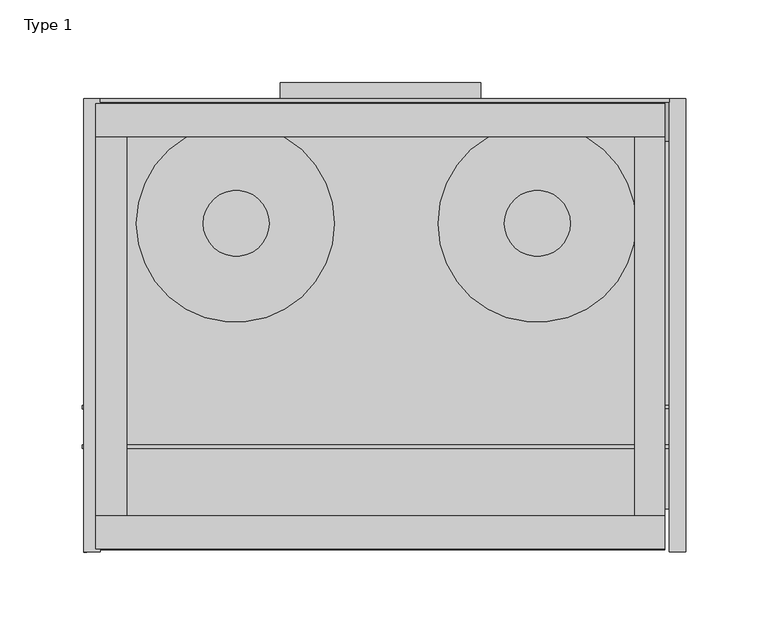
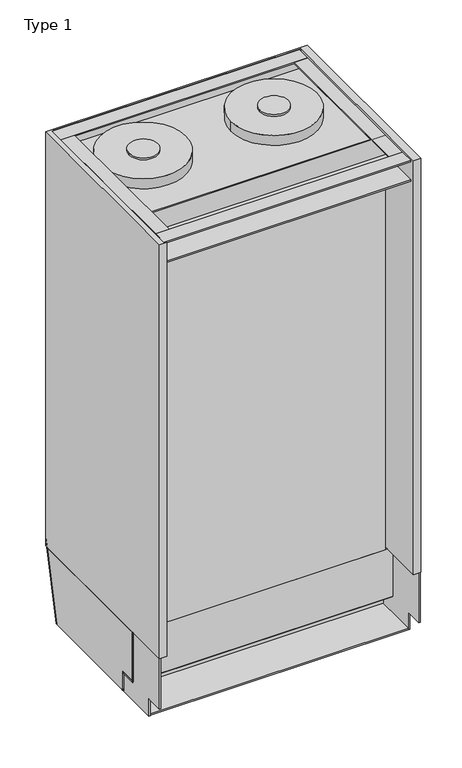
"""IFC4 building model written with IfcOpenShell, lengths in millimetres: proxy geometry, UE001 - Carel_Humidifier_Wallmount_BIM_Model : Type 1."""

from ifc_helpers import new_model, si_unit, point, frame, frame_2d, origin, place, context, project, spatial, polyline, circle_curve, ellipse_curve, trimmed, segment, composite_curve, outline, extrude, source, transform, mapped, element, save
from ifc_brep_helpers import plane_surface, extruded_surface, advanced_brep


def type_1_dc116fad(model_context):
    return source(origin(), model_context, "Body", "SolidModel", [
        extrude(outline(composite_curve([segment(trimmed(circle_curve(frame_2d((-90.9720559, 211.426212)), 20.0), [point((-110.9720559, 211.426212))], [point((-70.9720559, 211.426212))], False, "CARTESIAN"), True, "CONTINUOUS"), segment(trimmed(circle_curve(frame_2d((-90.9720559, 211.426212)), 20.0), [point((-70.9720559, 211.426212))], [point((-110.9720559, 211.426212))], False, "CARTESIAN"), True, "CONTINUOUS")], self_intersect=False)), frame((0.0, 0.0, 1098.1445814), z_axis=(0.0, 0.0, 1.0), x_axis=(1.0, 0.0, 0.0)), (0.0, 0.0, 1.0), 2.8183678),
        extrude(outline(composite_curve([segment(trimmed(circle_curve(frame_2d((91.6156471, 211.426212)), 20.0), [point((71.6156471, 211.426212))], [point((111.6156471, 211.426212))], False, "CARTESIAN"), True, "CONTINUOUS"), segment(trimmed(circle_curve(frame_2d((91.6156471, 211.426212)), 20.0), [point((111.6156471, 211.426212))], [point((71.6156471, 211.426212))], False, "CARTESIAN"), True, "CONTINUOUS")], self_intersect=False)), frame((0.0, 0.0, 1098.1445814), z_axis=(0.0, 0.0, 1.0), x_axis=(1.0, 0.0, 0.0)), (0.0, 0.0, 1.0), 2.8183678),
        extrude(outline(composite_curve([segment(trimmed(circle_curve(frame_2d((91.4514251, 211.426212)), 60.0), [point((151.4514251, 211.426212))], [point((31.4514251, 211.426212))], False, "CARTESIAN"), True, "CONTINUOUS"), segment(trimmed(circle_curve(frame_2d((91.4514251, 211.426212)), 60.0), [point((31.4514251, 211.426212))], [point((151.4514251, 211.426212))], False, "CARTESIAN"), True, "CONTINUOUS")], self_intersect=False)), frame((0.0, 0.0, 1083.4905184), z_axis=(0.0, 0.0, 1.0), x_axis=(1.0, 0.0, 0.0)), (0.0, 0.0, 1.0), 14.6540629),
        extrude(outline(composite_curve([segment(trimmed(circle_curve(frame_2d((-91.4514251, 211.426212)), 60.0), [point((-151.4514251, 211.426212))], [point((-31.4514251, 211.426212))], False, "CARTESIAN"), True, "CONTINUOUS"), segment(trimmed(circle_curve(frame_2d((-91.4514251, 211.426212)), 60.0), [point((-31.4514251, 211.426212))], [point((-151.4514251, 211.426212))], False, "CARTESIAN"), True, "CONTINUOUS")], self_intersect=False)), frame((0.0, 0.0, 1083.4905184), z_axis=(0.0, 0.0, 1.0), x_axis=(1.0, 0.0, 0.0)), (0.0, 0.0, 1.0), 14.6540629),
        extrude(outline(polyline([(287.1569067, 453.8519826), (287.1569067, 447.030123), (276.1148659, 443.0111489), (277.7599805, 450.4317811), (287.1569067, 453.8519826)])), frame((-150.8801784, 0.0, 0.0), z_axis=(1.0, 0.0, 0.0), x_axis=(0.0, 1.0, 0.0)), (0.0, 0.0, 1.0), 20.8809272),
        extrude(outline(polyline([(0.0, -3.8339423), (0.0, 0.0), (27.228015, 0.0), (27.228015, -3.8339423), (0.0, -3.8339423)])), frame((-154.1935427, 273.4162981, 430.8386958), z_axis=(0.0, 0.21643961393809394, 0.9762960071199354), x_axis=(1.0, 0.0, 0.0)), (0.0, 0.0, 1.0), 27.0024194),
        extrude(outline(polyline([(-181.4793267, 261.0980987), (179.42978, 261.0980987), (179.42978, 38.1773855), (-181.4793267, 38.1773855), (-181.4793267, 261.0980987)])), frame((0.0, 0.0, 400.0), z_axis=(0.0, 0.0, 1.0), x_axis=(1.0, 0.0, 0.0)), (0.0, 0.0, 1.0), 2.0),
        extrude(outline(composite_curve([segment(polyline([(519.4577065, 46.4496427), (519.4577065, -53.9639815)]), True, "CONTINUOUS"), segment(trimmed(circle_curve(frame_2d((499.4577065, -14.649782)), 44.1090272), [point((519.4577065, -53.9639815))], [point((479.4577065, -53.9639815))], False, "CARTESIAN"), True, "CONTINUOUS"), segment(polyline([(479.4577065, -53.9639815), (479.4577065, 46.4496427)]), True, "CONTINUOUS"), segment(trimmed(circle_curve(frame_2d((499.4577065, 7.1354432)), 44.1090272), [point((479.4577065, 46.4496427))], [point((519.4577065, 46.4496427))], False, "CARTESIAN"), True, "CONTINUOUS")], self_intersect=False)), frame((0.0, 287.0364506, 0.0), z_axis=(0.0, 1.0, 0.0), x_axis=(0.0, 0.0, 1.0)), (0.0, 0.0, 1.0), 9.9309076),
        extrude(outline(polyline([(529.4577065, 57.1707378), (529.4577065, -64.1734154), (469.4577065, -64.1734154), (469.4577065, 57.1707378), (529.4577065, 57.1707378)]), holes=[composite_curve([segment(trimmed(circle_curve(frame_2d((499.4577065, 7.1354432)), 49.1090272), [point((524.4577065, 49.4047767))], [point((474.4577065, 49.4047767))], True, "CARTESIAN"), True, "CONTINUOUS"), segment(polyline([(474.4577065, 49.4047767), (474.4577065, -56.9191155)]), True, "CONTINUOUS"), segment(trimmed(circle_curve(frame_2d((499.4577065, -14.649782)), 49.1090272), [point((474.4577065, -56.9191155))], [point((524.4577065, -56.9191155))], True, "CARTESIAN"), True, "CONTINUOUS"), segment(polyline([(524.4577065, -56.9191155), (524.4577065, 49.4047767)]), True, "CONTINUOUS")], self_intersect=False)]), frame((0.0, 287.0364506, 0.0), z_axis=(0.0, 1.0, 0.0), x_axis=(0.0, 0.0, 1.0)), (0.0, 0.0, 1.0), 9.9309076),
        extrude(outline(polyline([(168.7469486, 284.651872), (168.7469486, 13.3641482), (-176.2612875, 13.3641482), (-176.2612875, 284.651872), (168.7469486, 284.651872)])), frame((0.0, 0.0, 1081.4750398), z_axis=(0.0, 0.0, 1.0), x_axis=(1.0, 0.0, 0.0)), (0.0, 0.0, 1.0), 2.0154786),
        extrude(outline(polyline([(-176.2612875, 264.036335), (-176.2612875, 284.036335), (168.7469486, 284.036335), (168.7469486, 264.036335), (-176.2612875, 264.036335)])), frame((0.0, 0.0, 1109.8966395), z_axis=(0.0, 0.0, 1.0), x_axis=(1.0, 0.0, 0.0)), (0.0, 0.0, 1.0), 2.1033605),
        extrude(outline(polyline([(-176.2612875, 14.036335), (-176.2612875, 34.036335), (168.7469486, 34.036335), (168.7469486, 14.036335), (-176.2612875, 14.036335)])), frame((0.0, 0.0, 1109.8966395), z_axis=(0.0, 0.0, 1.0), x_axis=(1.0, 0.0, 0.0)), (0.0, 0.0, 1.0), 2.1033605),
        extrude(outline(polyline([(-157.3180842, 34.036335), (-176.2612875, 34.036335), (-176.2612875, 264.036335), (-157.3180842, 264.036335), (-157.3180842, 34.036335)])), frame((0.0, 0.0, 1104.1981623), z_axis=(0.0, 0.0, 1.0), x_axis=(1.0, 0.0, 0.0)), (0.0, 0.0, 1.0), 7.8083825),
        extrude(outline(polyline([(150.60469, 34.036335), (150.60469, 264.036335), (168.7469486, 264.036335), (168.7469486, 34.036335), (150.60469, 34.036335)])), frame((0.0, 0.0, 1109.8966395), z_axis=(0.0, 0.0, 1.0), x_axis=(1.0, 0.0, 0.0)), (0.0, 0.0, 1.0), 2.0244427),
        extrude(outline(polyline([(176.68893, 100.9740846), (176.68893, 99.0602683), (-184.2032688, 99.0602683), (-184.2032688, 100.9740846), (176.68893, 100.9740846)])), frame((0.0, 0.0, 400.0), z_axis=(0.0, 0.0, 1.0), x_axis=(1.0, 0.0, 0.0)), (0.0, 0.0, 1.0), 2.0),
        extrude(outline(polyline([(179.42978, 99.0602683), (179.42978, 76.9953596), (-183.5288733, 76.9953596), (-183.5288733, 99.0602683), (179.42978, 99.0602683)])), frame((0.0, 0.0, 425.3090696), z_axis=(0.0, 0.0, 1.0), x_axis=(1.0, 0.0, 0.0)), (0.0, 0.0, 1.0), 2.0817444),
        advanced_brep(
        [(171.4793447, 284.9636447, 500.0), (171.4793447, 284.9636447, 1112.0), (-173.5288914, 284.9636447, 1112.0), (-173.5288914, 284.9636447, 500.0), (31.4711086, 284.9636447, 1037.0), (-33.5288914, 284.9636447, 1037.0), (171.4793447, 287.0364506, 500.0), (-173.5288914, 287.0364506, 500.0), (-173.5288914, 287.0364506, 1112.0), (171.4793447, 287.0364506, 1112.0), (31.4711086, 287.0364506, 1037.0), (-33.5288914, 287.0364506, 1037.0)],
        [
            (0, 1),
            (1, 2),
            (2, 3),
            (3, 0),
            (4, 5, ellipse_curve(frame((-1.0288914, 284.9636447, 1037.0), z_axis=(0.0, 1.0, 0.0), x_axis=(-1.0, 0.0, 0.0)), 32.5, 10.0)),
            (5, 4, ellipse_curve(frame((-1.0288914, 284.9636447, 1037.0), z_axis=(0.0, 1.0, 0.0), x_axis=(1.0, 0.0, 0.0)), 32.5, 10.0)),
            (6, 7),
            (7, 8),
            (8, 9),
            (9, 6),
            (10, 11, ellipse_curve(frame((-1.0288914, 287.0364506, 1037.0), z_axis=(0.0, -1.0, 0.0), x_axis=(1.0, 0.0, 0.0)), 32.5, 10.0)),
            (11, 10, ellipse_curve(frame((-1.0288914, 287.0364506, 1037.0), z_axis=(0.0, -1.0, 0.0), x_axis=(-1.0, 0.0, 0.0)), 32.5, 10.0)),
            (3, 7),
            (6, 0),
            (2, 8),
            (1, 9),
            (4, 10),
            (11, 5),
        ],
        [
            plane_surface(frame((171.4793447, 284.9636447, 601.0000128), z_axis=(0.0, -1.0, 0.0), x_axis=(0.0, 0.0, 1.0))),
            plane_surface(frame((171.4793447, 287.0364506, 601.0000128), z_axis=(0.0, 1.0, 0.0), x_axis=(0.0, 0.0, -1.0))),
            plane_surface(frame((-173.5288914, 284.9636447, 500.0), z_axis=(0.0, 0.0, -1.0), x_axis=(0.0, 1.0, 0.0))),
            plane_surface(frame((-173.5288914, 284.9636447, 1112.0), z_axis=(-1.0, 0.0, 0.0), x_axis=(0.0, 1.0, 0.0))),
            plane_surface(frame((171.4793447, 284.9636447, 1112.0), z_axis=(0.0, 0.0, 1.0), x_axis=(0.0, 1.0, 0.0))),
            plane_surface(frame((171.4793447, 284.9636447, 500.0), z_axis=(1.0, 0.0, 0.0), x_axis=(0.0, 1.0, 0.0))),
            extruded_surface(trimmed(ellipse_curve(frame((-1.0288914, 214.5728036, 1037.0), z_axis=(0.0, 1.0, 0.0), x_axis=(-1.0, 0.0, 0.0)), 32.5, 10.0), [point((31.4711086, 214.5728036, 1037.0))], [point((-33.5288914, 214.5728036, 1037.0))], True, "CARTESIAN"), (0.0, -2.0728057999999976, 0.0), 2.0728057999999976),
            extruded_surface(trimmed(ellipse_curve(frame((-1.0288914, 214.5728036, 1037.0), z_axis=(0.0, 1.0, 0.0), x_axis=(1.0, 0.0, 0.0)), 32.5, 10.0), [point((-33.5288914, 214.5728036, 1037.0))], [point((31.4711086, 214.5728036, 1037.0))], True, "CARTESIAN"), (0.0, -2.0728057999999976, 0.0), 2.0728057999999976),
        ],
        [
            (0, [[1, 2, 3, 4], [5, 6]]),
            (1, [[7, 8, 9, 10], [11, 12]]),
            (2, [[-4, 13, -7, 14]]),
            (3, [[-3, 15, -8, -13]]),
            (4, [[-2, 16, -9, -15]]),
            (5, [[-1, -14, -10, -16]]),
            (6, [[-5, 17, -12, 18]]),
            (7, [[-6, -18, -11, -17]]),
        ],
    ),
        advanced_brep(
        [(30.9036292, 284.9636447, 1037.0), (-33.0288914, 284.9636447, 1037.0), (30.9036292, 287.0364506, 1037.0), (-33.0288914, 287.0364506, 1037.0)],
        [
            (0, 1, ellipse_curve(frame((-1.0626311, 284.9636447, 1037.0), z_axis=(0.0, -1.0, 0.0), x_axis=(1.0, 0.0, 0.0)), 31.9662603, 9.5628849)),
            (1, 0, ellipse_curve(frame((-1.0626311, 284.9636447, 1037.0), z_axis=(0.0, -1.0, 0.0), x_axis=(-1.0, 0.0, 0.0)), 31.9662603, 9.4535919)),
            (2, 3, ellipse_curve(frame((-1.0626311, 287.0364506, 1037.0), z_axis=(0.0, 1.0, 0.0), x_axis=(-1.0, 0.0, 0.0)), 31.9662603, 9.4535919)),
            (3, 2, ellipse_curve(frame((-1.0626311, 287.0364506, 1037.0), z_axis=(0.0, 1.0, 0.0), x_axis=(1.0, 0.0, 0.0)), 31.9662603, 9.5628849)),
            (0, 2),
            (3, 1),
        ],
        [
            plane_surface(frame((171.4793447, 284.9636447, 601.0000128), z_axis=(0.0, -1.0, 0.0), x_axis=(0.0, 0.0, 1.0))),
            plane_surface(frame((171.4793447, 287.0364506, 601.0000128), z_axis=(0.0, 1.0, 0.0), x_axis=(0.0, 0.0, -1.0))),
            extruded_surface(trimmed(ellipse_curve(frame((-1.0626311, 214.5728036, 1037.0), z_axis=(0.0, -1.0, 0.0), x_axis=(1.0, 0.0, 0.0)), 31.9662603, 9.5628849), [point((30.9036292, 214.5728036, 1037.0))], [point((-33.0288914, 214.5728036, 1037.0))], True, "CARTESIAN"), (0.0, -2.0728057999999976, 0.0), 2.0728057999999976),
            extruded_surface(trimmed(ellipse_curve(frame((-1.0626311, 214.5728036, 1037.0), z_axis=(0.0, -1.0, 0.0), x_axis=(-1.0, 0.0, 0.0)), 31.9662603, 9.4535919), [point((-33.0288914, 214.5728036, 1037.0))], [point((30.9036292, 214.5728036, 1037.0))], True, "CARTESIAN"), (0.0, -2.0728057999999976, 0.0), 2.0728057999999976),
        ],
        [
            (0, [[1, 2]]),
            (1, [[3, 4]]),
            (2, [[-1, 5, -4, 6]]),
            (3, [[-2, -6, -3, -5]]),
        ],
    ),
        extrude(outline(polyline([(-176.2612875, 77.0363508), (168.7469486, 77.0363508), (168.7469486, 75.0), (-176.2612875, 75.0), (-176.2612875, 77.0363508)])), frame((0.0, 0.0, 500.0), z_axis=(0.0, 0.0, 1.0), x_axis=(1.0, 0.0, 0.0)), (0.0, 0.0, 1.0), 612.0),
        extrude(outline(polyline([(-184.2117227, 76.9953596), (178.7469306, 76.9953596), (178.7469306, 75.0), (-184.2117227, 75.0), (-184.2117227, 76.9953596)])), frame((0.0, 0.0, 427.3908139), z_axis=(0.0, 0.0, 1.0), x_axis=(1.0, 0.0, 0.0)), (0.0, 0.0, 1.0), 72.6091861),
        extrude(outline(polyline([(-183.5288733, 11.9999876), (-183.5288733, 287.0), (-173.5288914, 287.0), (-173.5288914, 11.9999876), (-183.5288733, 11.9999876)])), frame((0.0, 0.0, 500.0), z_axis=(0.0, 0.0, 1.0), x_axis=(1.0, 0.0, 0.0)), (0.0, 0.0, 1.0), 612.0),
        extrude(outline(polyline([(-183.5288733, 101.1773855), (181.4793267, 101.1773855), (181.4793267, 99.0602683), (-183.5288733, 99.0602683), (-183.5288733, 101.1773855)])), frame((0.0, 0.0, 400.0), z_axis=(0.0, 0.0, 1.0), x_axis=(1.0, 0.0, 0.0)), (0.0, 0.0, 1.0), 27.3908139),
        extrude(outline(polyline([(287.0364506, 510.7561389), (262.4824086, 400.0000128), (261.0980987, 400.0000128), (285.6521407, 510.7561389), (287.0364506, 510.7561389)])), frame((-183.5206798, 0.0, 0.0), z_axis=(1.0, 0.0, 0.0), x_axis=(0.0, 1.0, 0.0)), (0.0, 0.0, 1.0), 362.9335519),
        extrude(outline(polyline([(37.4, 400.0000128), (37.4, 425.4000128), (12.0, 425.4000128), (12.0, 500.0), (283.2675622, 500.0), (261.0980987, 400.0000128), (37.4, 400.0000128)])), frame((-183.5288733, 0.0, 0.0), z_axis=(1.0, 0.0, 0.0), x_axis=(0.0, 1.0, 0.0)), (0.0, 0.0, 1.0), 2.0495467),
        extrude(outline(polyline([(181.4793267, 287.0364506), (181.4793267, 11.9999876), (171.4793447, 11.9999876), (171.4793447, 287.0364506), (181.4793267, 287.0364506)])), frame((0.0, 0.0, 500.0), z_axis=(0.0, 0.0, 1.0), x_axis=(1.0, 0.0, 0.0)), (0.0, 0.0, 1.0), 612.0),
        extrude(outline(polyline([(38.7641482, 399.9090696), (38.7641482, 425.3090696), (13.3641482, 425.3090696), (13.3641482, 500.0), (284.651872, 500.0), (262.4622469, 399.9090696), (38.7641482, 399.9090696)])), frame((179.42978, 0.0, 0.0), z_axis=(1.0, 0.0, 0.0), x_axis=(0.0, 1.0, 0.0)), (0.0, 0.0, 1.0), 2.0495467),
    ])


if __name__ == "__main__":
    model = new_model("IFC4")
    model_context = context("Model", 3, world=origin())
    ifc_project = project(units=[si_unit("LENGTHUNIT", "METRE", prefix="MILLI")], contexts=[model_context])
    site = spatial("IfcSite", under=ifc_project)
    building = spatial("IfcBuilding", under=site)
    placement = place(None, origin())
    type_1_shape = type_1_dc116fad(model_context)
    element("IfcBuildingElementProxy", 1, Name="UE001 - Carel_Humidifier_Wallmount_BIM_Model : Type 1", ObjectType="UE001 - Carel_Humidifier_Wallmount_BIM_Model : Type 1", at=placement, inside=building, context=model_context, shape_type="MappedRepresentation", body=[
        mapped(type_1_shape, transform((0.0, 0.0, 0.0), x_axis=(1.0, 0.0, 0.0), y_axis=(0.0, 1.0, 0.0), z_axis=(0.0, 0.0, 1.0))),
    ])
    save(model, "model.ifc")
